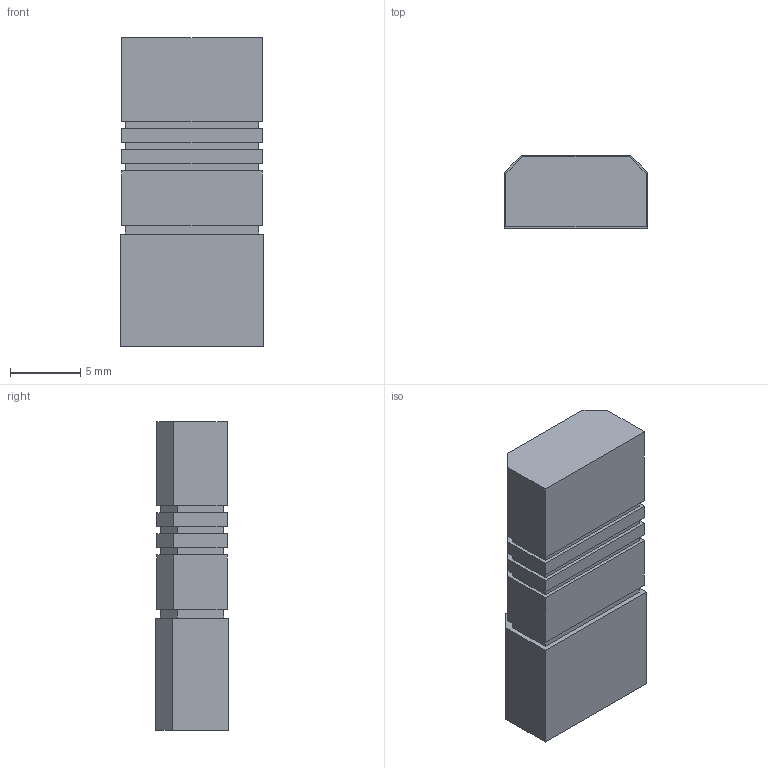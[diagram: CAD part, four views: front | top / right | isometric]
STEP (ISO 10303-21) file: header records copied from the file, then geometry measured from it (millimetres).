
FILE_DESCRIPTION(('Open CASCADE Model'),'2;1');
FILE_NAME('Open CASCADE Shape Model','2026-11-05T20:49:57',('Author'),( 'Open CASCADE'),'Open CASCADE STEP processor 8.0','build123d', 'Unknown');
FILE_SCHEMA(('AUTOMOTIVE_DESIGN { 1 0 10303 214 1 1 1 1 }'));
Length unit declared in the file: millimetre
Products named in the file (2): =>[0:1:1:2]; COMPOUND
Assembly tree (1 placements, depth 2):
  =>[0:1:1:2]
    COMPOUND
Bounding box: 10.2 x 5.2 x 22 mm (x, y, z)
Volume: 1077.4 mm3; surface area: 792.5 mm2
Topology: 1 solids, 1 shells, 64 faces, 162 edges, 108 vertices
Faces by surface type: plane 64
Entity records: 3924 total; most frequent: CARTESIAN_POINT 756, DIRECTION 522, LINE 390, VECTOR 390, ORIENTED_EDGE 324, PCURVE 324, DEFINITIONAL_REPRESENTATION 324, EDGE_CURVE 162
